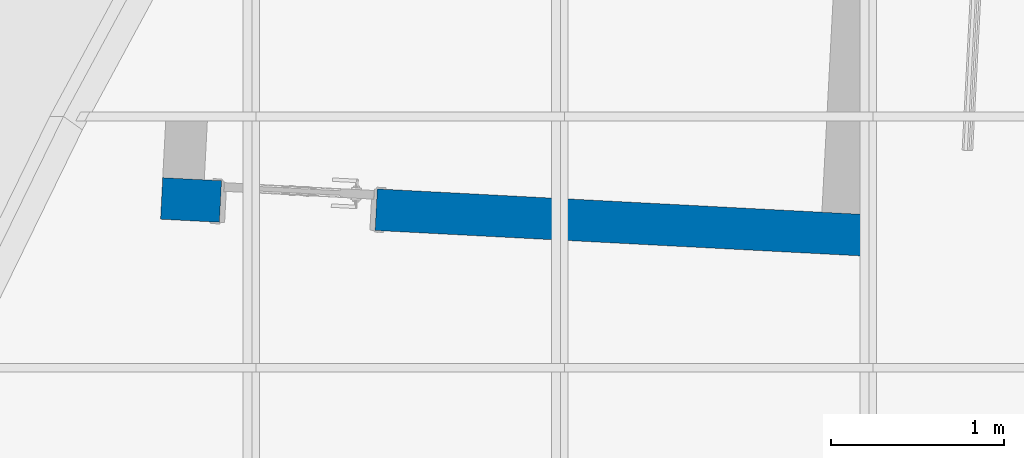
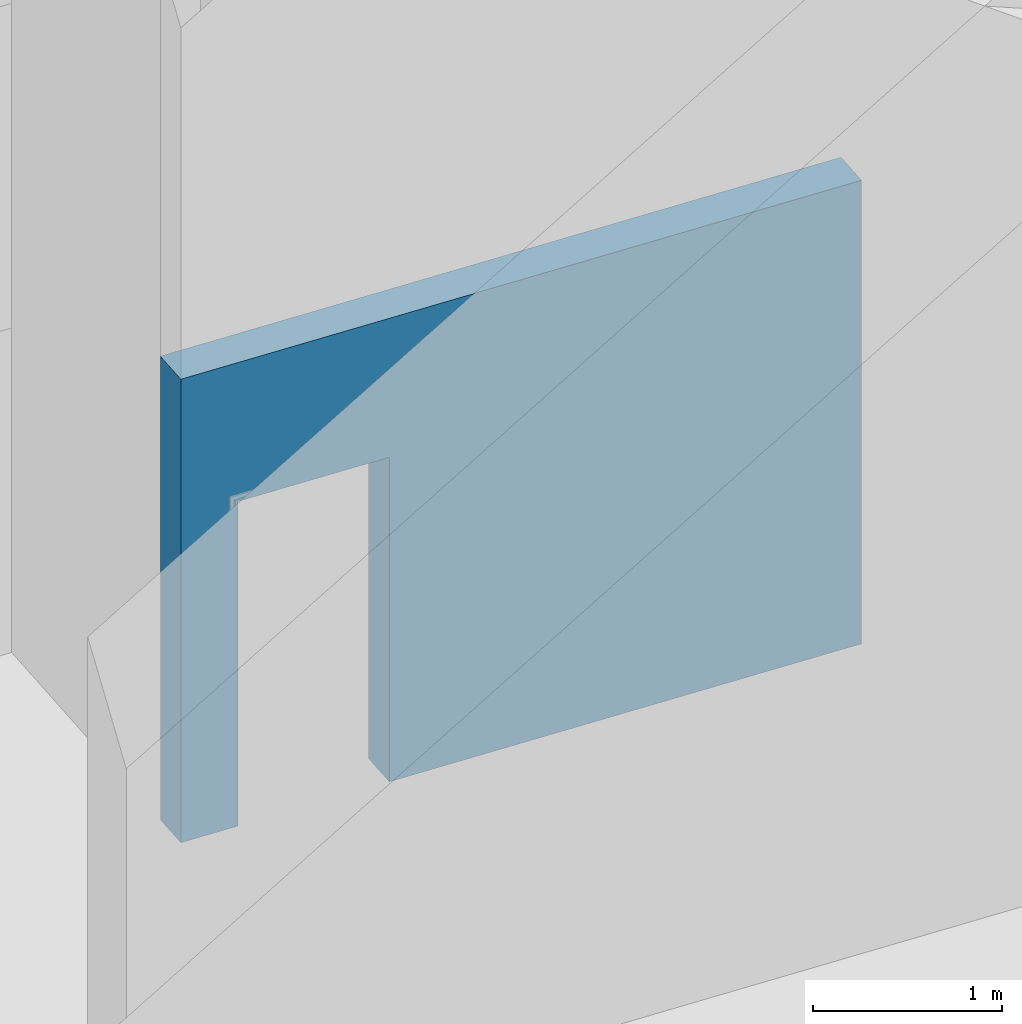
# One storey, part 59 of 82: 1 wall, 1 opening.
"""IFC2X3 building model written with IfcOpenShell, lengths in millimetres."""

from ifc_helpers import new_model, entity, si_unit, converted_unit, derived_unit, direction, frame, frame_2d, origin, place, context, subcontext, project, spatial, rectangle, extrude, material, layer, layer_set, layer_usage, type_object, element, save


model = new_model("IFC2X3")

# Units and contexts
model_context = context("Model", 3, precision=0.01, world=origin(), true_north=direction((6.12303176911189e-17, 1.0)))
body_context = subcontext(model_context, "Body", "Model", "MODEL_VIEW")
ifc_project = project(units=[si_unit("LENGTHUNIT", "METRE", prefix="MILLI"), si_unit("AREAUNIT", "SQUARE_METRE"), si_unit("VOLUMEUNIT", "CUBIC_METRE"), converted_unit("PLANEANGLEUNIT", "DEGREE", entity("IfcRatioMeasure", 0.0174532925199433), si_unit("PLANEANGLEUNIT", "RADIAN"), dimensions=[0, 0, 0, 0, 0, 0, 0]), si_unit("MASSUNIT", "GRAM", prefix="KILO"), derived_unit("MASSDENSITYUNIT", [(si_unit("MASSUNIT", "GRAM", prefix="KILO"), 1), (si_unit("LENGTHUNIT", "METRE"), -3)]), si_unit("TIMEUNIT", "SECOND"), si_unit("FREQUENCYUNIT", "HERTZ"), si_unit("THERMODYNAMICTEMPERATUREUNIT", "DEGREE_CELSIUS"), derived_unit("THERMALTRANSMITTANCEUNIT", [(si_unit("MASSUNIT", "GRAM", prefix="KILO"), 1), (si_unit("THERMODYNAMICTEMPERATUREUNIT", "KELVIN"), -1), (si_unit("TIMEUNIT", "SECOND"), -3)]), derived_unit("VOLUMETRICFLOWRATEUNIT", [(si_unit("LENGTHUNIT", "METRE"), 3), (si_unit("TIMEUNIT", "SECOND"), -1)]), si_unit("ELECTRICCURRENTUNIT", "AMPERE"), si_unit("ELECTRICVOLTAGEUNIT", "VOLT"), si_unit("POWERUNIT", "WATT"), si_unit("FORCEUNIT", "NEWTON", prefix="KILO"), si_unit("ILLUMINANCEUNIT", "LUX"), si_unit("LUMINOUSFLUXUNIT", "LUMEN"), si_unit("LUMINOUSINTENSITYUNIT", "CANDELA"), derived_unit("USERDEFINED", [(si_unit("MASSUNIT", "GRAM", prefix="KILO"), -1), (si_unit("LENGTHUNIT", "METRE"), -2), (si_unit("TIMEUNIT", "SECOND"), 3), (si_unit("LUMINOUSFLUXUNIT", "LUMEN"), 1)]), derived_unit("LINEARVELOCITYUNIT", [(si_unit("LENGTHUNIT", "METRE"), 1), (si_unit("TIMEUNIT", "SECOND"), -1)]), si_unit("PRESSUREUNIT", "PASCAL"), derived_unit("USERDEFINED", [(si_unit("LENGTHUNIT", "METRE"), -2), (si_unit("MASSUNIT", "GRAM", prefix="KILO"), 1), (si_unit("TIMEUNIT", "SECOND"), -2)])], contexts=[model_context])

# Site, building, storey
site_placement = place(None, origin())
site = spatial("IfcSite", under=ifc_project, at=site_placement, Name="表面", CompositionType="ELEMENT")
building_placement = place(site_placement, origin())
building = spatial("IfcBuilding", under=site, at=building_placement, CompositionType="ELEMENT")
storey_placement = place(building_placement, origin())
storey = spatial("IfcBuildingStorey", under=building, at=storey_placement, Name="1F", CompositionType="ELEMENT", Elevation=0.0)

# Wall, opening
ifc_material_1 = material(Name="白色涂料")
ifc_layer_1 = layer(ifc_material_1, 10.0)
ifc_material_2 = material(Name="默认墙")
ifc_layer_2 = layer(ifc_material_2, 220.0)
ifc_layer_3 = layer(ifc_material_1, 10.0)
ifc_layer_set = layer_set([ifc_layer_1, ifc_layer_2, ifc_layer_3], Name="基本墙:粉刷墙240")
ifc_layer_usage = layer_usage(ifc_layer_set, "AXIS2", "NEGATIVE", 120.0)
wall_type = type_object("IfcWallType", Name="基本墙:粉刷墙240", PredefinedType="STANDARD", material=ifc_layer_set)
wall_placement = place(storey_placement, frame((-21734.410378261, 425.820501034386, 0.0), z_axis=(0.0, 0.0, 1.0), x_axis=(-0.998629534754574, 0.0523359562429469, 0.0)))
wall = element("IfcWallStandardCase", 1, at=wall_placement, inside=storey, type_object=wall_type, material=ifc_layer_usage, Name="基本墙:粉刷墙240", ObjectType="基本墙:粉刷墙240", context=body_context, shape_type="SweptSolid", body=[
    extrude(rectangle(XDim=4050.00000000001, YDim=240.0, at=frame_2d((2025.0, -1.13686837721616e-13), x_axis=(-1.0, 0.0))), origin(), (0.0, 0.0, 1.0), 3000.00000000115),
])
opening_placement = place(wall_placement, frame((3710.0, 120.0, 0.0)))
element("IfcOpeningElement", 2, at=opening_placement, cuts=wall, Name="装饰木门:M0921:1", ObjectType="Opening", context=body_context, shape_type="SweptSolid", body=[
    extrude(rectangle(XDim=2099.99999999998, YDim=900.0, at=frame_2d((1049.99999999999, 450.0), x_axis=(1.0, 0.0))), frame((0.0, 0.0, 0.0), z_axis=(0.0, -1.0, 0.0), x_axis=(0.0, 0.0, 1.0)), (0.0, 0.0, 1.0), 240.0),
])

save(model, "model.ifc")
